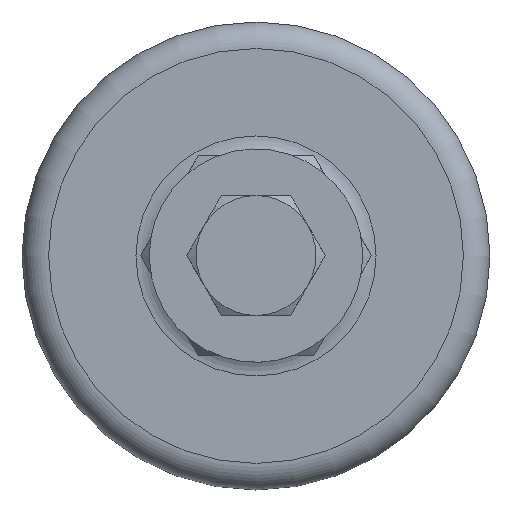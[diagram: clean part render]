
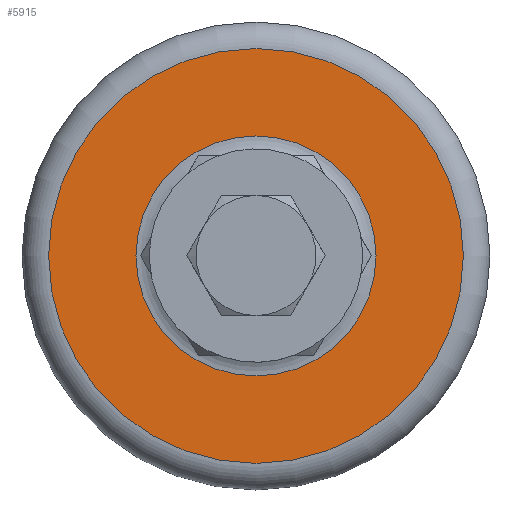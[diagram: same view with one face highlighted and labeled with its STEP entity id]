
A CAD part, top view. The second image highlights one B-rep face of the part: STEP entity #5915.
In plain terms, the highlighted planar face has unit normal (0, 0, 1).
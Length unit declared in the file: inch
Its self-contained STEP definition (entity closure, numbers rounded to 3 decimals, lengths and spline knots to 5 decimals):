
#1414=PLANE('',#6263);
#1645=FACE_BOUND('',#2048,.T.);
#1710=FACE_OUTER_BOUND('',#2047,.T.);
#2047=EDGE_LOOP('',(#3910));
#2048=EDGE_LOOP('',(#3911));
#2446=CIRCLE('',#6262,0.5625);
#2447=CIRCLE('',#6264,0.9719);
#2533=VERTEX_POINT('',#7924);
#2534=VERTEX_POINT('',#7927);
#3089=EDGE_CURVE('',#2533,#2533,#2446,.T.);
#3090=EDGE_CURVE('',#2534,#2534,#2447,.T.);
#3910=ORIENTED_EDGE('',*,*,#3090,.F.);
#3911=ORIENTED_EDGE('',*,*,#3089,.F.);
#5915=ADVANCED_FACE('',(#1710,#1645),#1414,.T.);
#6262=AXIS2_PLACEMENT_3D('',#7925,#6628,#6629);
#6263=AXIS2_PLACEMENT_3D('',#7926,#6630,#6631);
#6264=AXIS2_PLACEMENT_3D('',#7928,#6632,#6633);
#6628=DIRECTION('center_axis',(0.,0.,
1.));
#6629=DIRECTION('ref_axis',(1.,0.,0.));
#6630=DIRECTION('center_axis',(0.,0.,
1.));
#6631=DIRECTION('ref_axis',(1.,0.,0.));
#6632=DIRECTION('center_axis',(0.,0.,
-1.));
#6633=DIRECTION('ref_axis',(-1.,0.,0.));
#7924=CARTESIAN_POINT('',(-0.5625,0.,3.625));
#7925=CARTESIAN_POINT('Origin',(0.,0.,
3.625));
#7926=CARTESIAN_POINT('Origin',(-0.7047,0.,
3.625));
#7927=CARTESIAN_POINT('',(-0.9719,0.,3.625));
#7928=CARTESIAN_POINT('Origin',(0.,0.,
3.625));
